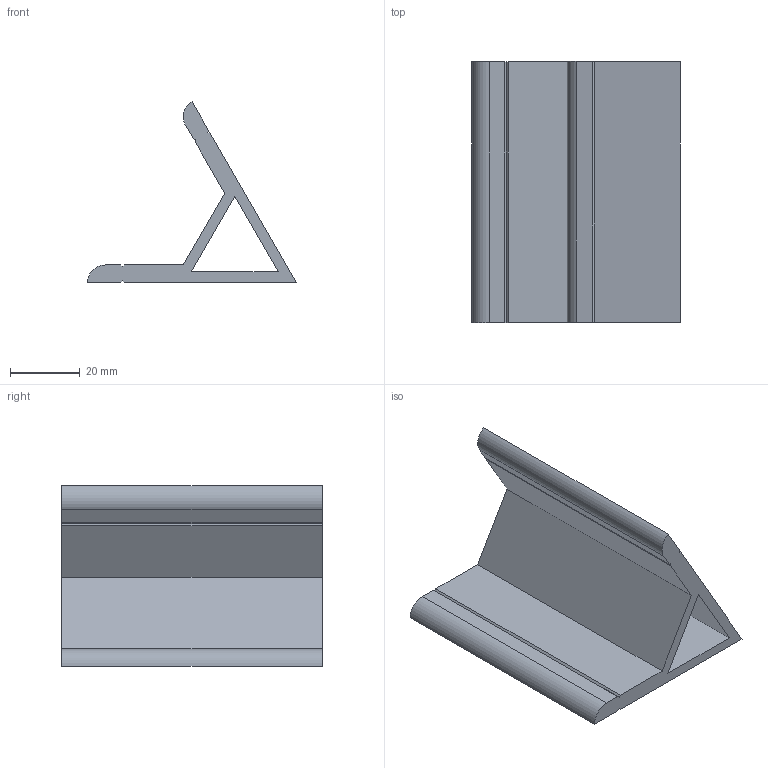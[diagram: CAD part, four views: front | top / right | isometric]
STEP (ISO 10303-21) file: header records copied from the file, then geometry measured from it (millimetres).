
FILE_DESCRIPTION(/* description */ ('Unknown'),/* implementation_level */ '2;1');
FILE_NAME(/* name */ 'NMV6060',/* time_stamp */ '2026-09-02T13:05:28+08:00',/* author */ ('Unknown'),/* organization */ ('Unknown'),/* preprocessor_version */ 'ST-DEVELOPER v16.7',/* originating_system */ 'DEX',/* authorisation */ $);
FILE_SCHEMA (('AUTOMOTIVE_DESIGN {1 0 10303 214 3 1 1}'));
Length unit declared in the file: millimetre
Products named in the file (1): NMV6060
Bounding box: 60 x 75 x 51.96 mm (x, y, z)
Volume: 39040.9 mm3; surface area: 22131 mm2
Topology: 1 solids, 1 shells, 24 faces, 66 edges, 44 vertices
Faces by surface type: plane 22, cylinder 2
Entity records: 788 total; most frequent: CARTESIAN_POINT 135, ORIENTED_EDGE 132, DIRECTION 120, EDGE_CURVE 66, LINE 62, VECTOR 62, VERTEX_POINT 44, AXIS2_PLACEMENT_3D 29
